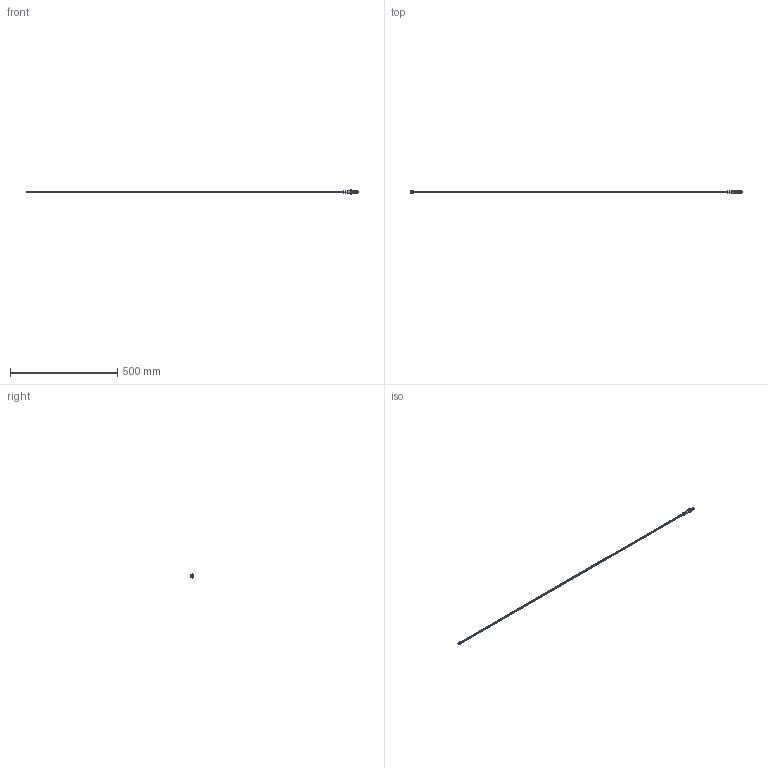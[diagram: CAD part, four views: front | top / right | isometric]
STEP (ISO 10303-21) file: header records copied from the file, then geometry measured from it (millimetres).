
FILE_DESCRIPTION(('CATIA V5 STEP Exchange'),'2;1');
FILE_NAME('Y:\Entwicklungsprojekte\Sensorik\03_Hardware\03_Sensoren\Datenbank\Lambda_Sensors\B 258 490 103_20\Bosch Serien Unterlagen\b 258 490 103_20_e001.stp','2009-01-26T10:46:30+00:00',('none'),('none'),'CATIA Version 5 Release 17 (IN-10)','CATIA V5 STEP AP214','none');
FILE_SCHEMA(('AUTOMOTIVE_DESIGN { 1 0 10303 214 1 1 1 1 }'));
Length unit declared in the file: millimetre
Products named in the file (1): rus1C63Di1dq
Bounding box: 1546.32 x 17 x 19.63 mm (x, y, z)
Volume: 21053.6 mm3; surface area: 48584.9 mm2
Topology: 11 solids, 11 shells, 515 faces, 1397 edges, 916 vertices
Faces by surface type: cylinder 136, plane 131, cone 100, bspline 90, torus 58
Entity records: 20721 total; most frequent: CARTESIAN_POINT 8708, ORIENTED_EDGE 2778, DIRECTION 1741, EDGE_CURVE 1389, VERTEX_POINT 904, AXIS2_PLACEMENT_3D 873, EDGE_LOOP 555, ADVANCED_FACE 515
